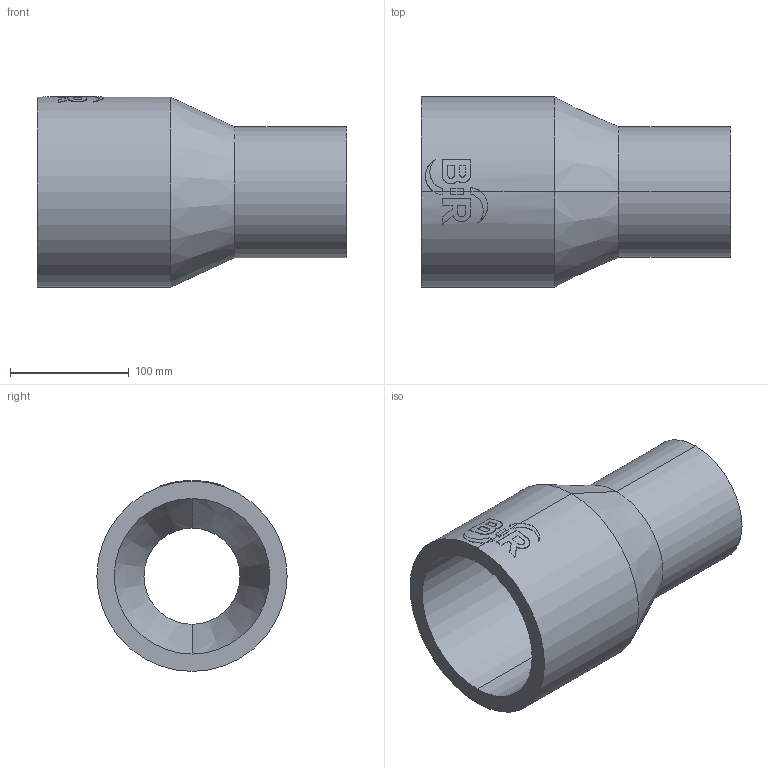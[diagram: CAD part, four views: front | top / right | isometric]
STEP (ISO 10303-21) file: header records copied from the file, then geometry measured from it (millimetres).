
FILE_DESCRIPTION (( 'STEP AP214' ), '1' );
FILE_NAME ('2323171415.STEP', '2018-07-20T09:45:34', ( '' ), ( '' ), 'SwSTEP 2.0', 'SolidWorks 2017', '' );
FILE_SCHEMA (( 'AUTOMOTIVE_DESIGN' ));
Length unit declared in the file: millimetre
Products named in the file (1): 2323171415
Bounding box: 260 x 160 x 160.46 mm (x, y, z)
Volume: 1483658 mm3; surface area: 214439.1 mm2
Topology: 1 solids, 1 shells, 63 faces, 160 edges, 104 vertices
Faces by surface type: cylinder 31, plane 28, cone 4
Entity records: 3249 total; most frequent: CARTESIAN_POINT 1040, ORIENTED_EDGE 320, DIRECTION 296, EDGE_CURVE 160, AXIS2_PLACEMENT_3D 112, VERTEX_POINT 104, VECTOR 72, LINE 72
